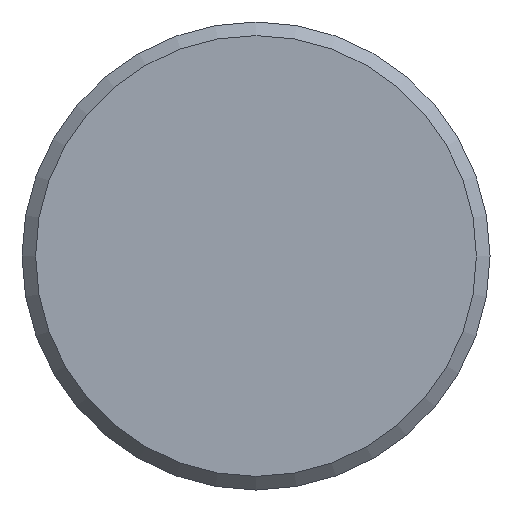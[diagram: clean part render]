
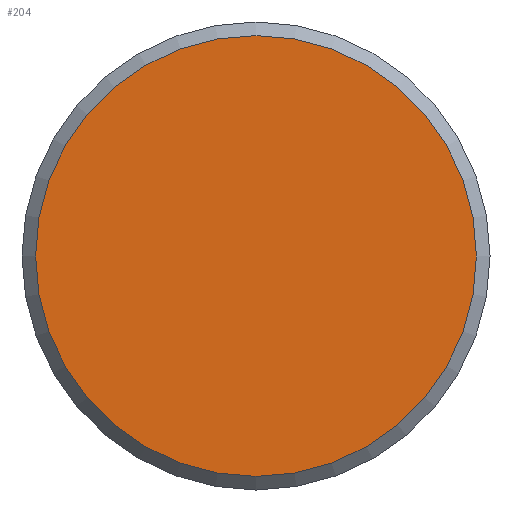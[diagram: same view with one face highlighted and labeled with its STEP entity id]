
A CAD part, left-side view. The second image highlights one B-rep face of the part: STEP entity #204.
In plain terms, the highlighted planar face has unit normal (-1, 0, 0).
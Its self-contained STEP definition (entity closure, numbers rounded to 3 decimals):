
#20=PLANE($,#238);
#51=FACE_OUTER_BOUND($,#79,.T.);
#79=EDGE_LOOP($,(#159));
#97=CIRCLE($,#234,2.057);
#113=VERTEX_POINT($,#347);
#129=EDGE_CURVE($,#113,#113,#97,.T.);
#159=ORIENTED_EDGE($,*,*,#129,.F.);
#204=ADVANCED_FACE($,(#51),#20,.T.);
#234=AXIS2_PLACEMENT_3D($,#348,#292,#293);
#238=AXIS2_PLACEMENT_3D($,#354,#300,#301);
#292=DIRECTION('center_axis',(1.,0.,0.));
#293=DIRECTION('ref_axis',(0.,-1.,0.));
#300=DIRECTION('center_axis',(-1.,0.,0.));
#301=DIRECTION('ref_axis',(0.,0.,1.));
#347=CARTESIAN_POINT('',(-7.117,5.505,0.));
#348=CARTESIAN_POINT('Origin',(-7.117,3.447,0.));
#354=CARTESIAN_POINT('Origin',(-7.117,4.539,0.));
